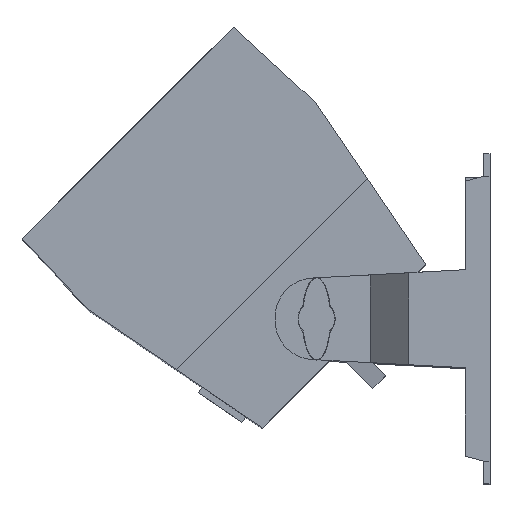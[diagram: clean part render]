
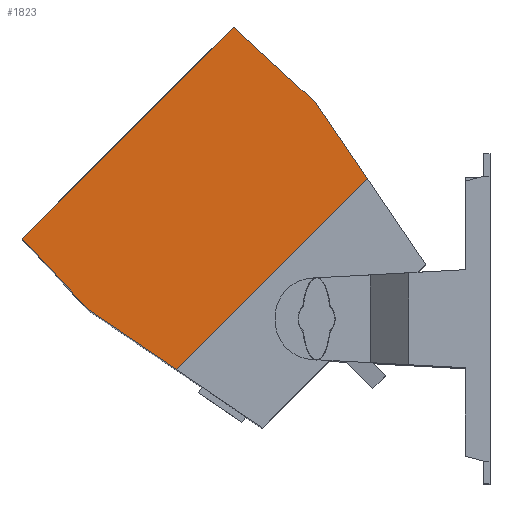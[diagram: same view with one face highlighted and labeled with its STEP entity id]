
A CAD part, top view. The second image highlights one B-rep face of the part: STEP entity #1823.
In plain terms, the highlighted planar face has unit normal (0, 0, 1).
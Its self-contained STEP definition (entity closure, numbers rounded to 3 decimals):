
#176=FACE_OUTER_BOUND('',#286,.T.);
#286=EDGE_LOOP('',(#1550,#1551,#1552,#1553,#1554,#1555));
#479=LINE('',#4548,#693);
#480=LINE('',#4550,#694);
#481=LINE('',#4552,#695);
#482=LINE('',#4554,#696);
#483=LINE('',#4556,#697);
#484=LINE('',#4557,#698);
#693=VECTOR('',#2429,10.);
#694=VECTOR('',#2430,10.);
#695=VECTOR('',#2431,10.);
#696=VECTOR('',#2432,10.);
#697=VECTOR('',#2433,10.);
#698=VECTOR('',#2434,10.);
#874=VERTEX_POINT('',#4546);
#875=VERTEX_POINT('',#4547);
#876=VERTEX_POINT('',#4549);
#877=VERTEX_POINT('',#4551);
#878=VERTEX_POINT('',#4553);
#879=VERTEX_POINT('',#4555);
#1109=EDGE_CURVE('',#874,#875,#479,.T.);
#1110=EDGE_CURVE('',#874,#876,#480,.T.);
#1111=EDGE_CURVE('',#876,#877,#481,.T.);
#1112=EDGE_CURVE('',#877,#878,#482,.T.);
#1113=EDGE_CURVE('',#878,#879,#483,.T.);
#1114=EDGE_CURVE('',#879,#875,#484,.T.);
#1550=ORIENTED_EDGE('',*,*,#1109,.F.);
#1551=ORIENTED_EDGE('',*,*,#1110,.T.);
#1552=ORIENTED_EDGE('',*,*,#1111,.T.);
#1553=ORIENTED_EDGE('',*,*,#1112,.T.);
#1554=ORIENTED_EDGE('',*,*,#1113,.T.);
#1555=ORIENTED_EDGE('',*,*,#1114,.T.);
#1725=PLANE('',#2024);
#1823=ADVANCED_FACE('',(#176),#1725,.T.);
#2024=AXIS2_PLACEMENT_3D('',#4545,#2427,#2428);
#2427=DIRECTION('center_axis',(0.,0.,1.));
#2428=DIRECTION('ref_axis',(1.,0.,0.));
#2429=DIRECTION('',(1.,0.,0.));
#2430=DIRECTION('',(-0.036,-0.999,0.));
#2431=DIRECTION('',(0.188,-0.982,0.));
#2432=DIRECTION('',(1.,0.,0.));
#2433=DIRECTION('',(0.188,0.982,0.));
#2434=DIRECTION('',(-0.044,0.999,0.));
#4545=CARTESIAN_POINT('Origin',(-0.652,-7.654,154.05));
#4546=CARTESIAN_POINT('',(-73.32,46.887,154.05));
#4547=CARTESIAN_POINT('',(71.339,46.887,154.05));
#4548=CARTESIAN_POINT('',(-0.652,46.887,154.05));
#4549=CARTESIAN_POINT('',(-75.02,-0.699,154.05));
#4550=CARTESIAN_POINT('',(-73.32,46.887,154.05));
#4551=CARTESIAN_POINT('',(-65.454,-50.8,154.05));
#4552=CARTESIAN_POINT('',(-75.02,-0.699,154.05));
#4553=CARTESIAN_POINT('',(65.454,-50.8,154.05));
#4554=CARTESIAN_POINT('',(-0.326,-50.8,154.05));
#4555=CARTESIAN_POINT('',(73.715,-7.532,154.05));
#4556=CARTESIAN_POINT('',(56.003,-100.3,154.05));
#4557=CARTESIAN_POINT('',(74.82,-32.831,154.05));
